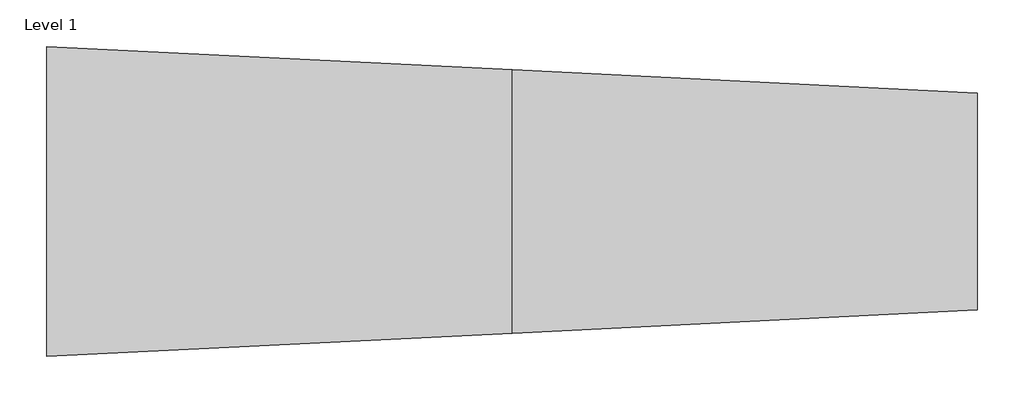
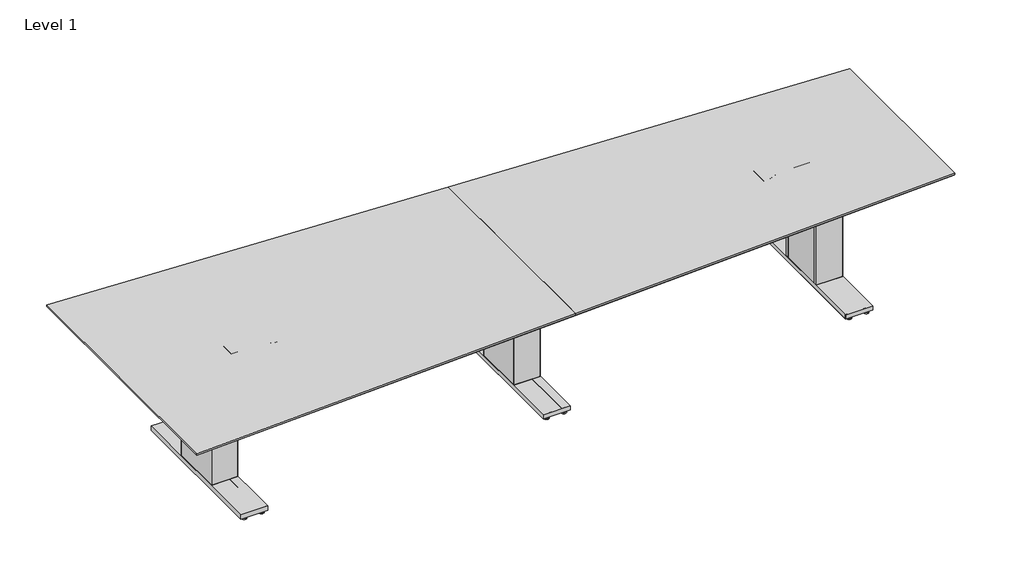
# One storey, incomplete: 9 proxies.
"""IFC4 building model written with IfcOpenShell, lengths in millimetres."""

from ifc_helpers import new_model, si_unit, origin, place, context, project, spatial, transform, mapped, element, save
from components import generic_models_b9161e84, generic_models_fe4cac86, generic_models_3990db88, generic_models_0eea9f45

model = new_model("IFC4")

# Units and contexts
model_context = context("Model", 3, world=origin())
ifc_project = project(units=[si_unit("LENGTHUNIT", "METRE", prefix="MILLI")], contexts=[model_context])

# Site, building, storey
site = spatial("IfcSite", under=ifc_project)
building = spatial("IfcBuilding", under=site)
storey = spatial("IfcBuildingStorey", under=building, Name="Level 1", Elevation=0.0)

# Proxies
placement = place(None, origin())
generic_models_shape = generic_models_b9161e84(model_context)
element("IfcBuildingElementProxy", 1, Name="AERO^TABLE 4_6  X 36 BASE-REV221", ObjectType="AERO^TABLE 4_6  X 36 BASE-REV221", at=placement, inside=storey, context=model_context, shape_type="MappedRepresentation", body=[
    mapped(generic_models_shape, transform((435.76875, -1216.025, -625.0722901), x_axis=(1.0, 0.0, 0.0), y_axis=(0.0, 0.0, 1.0), z_axis=(0.0, -1.0, 0.0))),
])
element("IfcBuildingElementProxy", 2, Name="AERO^TABLE 4_6  X 36 BASE-REV221", ObjectType="AERO^TABLE 4_6  X 36 BASE-REV221", at=placement, inside=storey, context=model_context, shape_type="MappedRepresentation", body=[
    mapped(generic_models_shape, transform((3977.48125, -1216.025, -625.0722901), x_axis=(1.0, 0.0, 0.0), y_axis=(0.0, 0.0, 1.0), z_axis=(0.0, -1.0, 0.0))),
])
element("IfcBuildingElementProxy", 3, Name="AERO^TABLE 4_6  X 36 BASE-REV221", ObjectType="AERO^TABLE 4_6  X 36 BASE-REV221", at=placement, inside=storey, context=model_context, shape_type="MappedRepresentation", body=[
    mapped(generic_models_shape, transform((2206.625, -1216.025, -625.0722901), x_axis=(1.0, 0.0, 0.0), y_axis=(0.0, 0.0, 1.0), z_axis=(0.0, -1.0, 0.0))),
])
generic_models_2_shape = generic_models_fe4cac86(model_context)
element("IfcBuildingElementProxy", 4, Name="AERO^TABLE 4__AMC-611-V-122", ObjectType="AERO^TABLE 4__AMC-611-V-122", at=placement, inside=storey, context=model_context, shape_type="MappedRepresentation", body=[
    mapped(generic_models_2_shape, transform((2228.05625, -893.7625, -593.7590525), x_axis=(0.0, 1.0, 0.0), y_axis=(0.0, 0.0, 1.0), z_axis=(1.0, 0.0, 0.0))),
])
element("IfcBuildingElementProxy", 5, Name="AERO^TABLE 4__AMC-611-V-122", ObjectType="AERO^TABLE 4__AMC-611-V-122", at=placement, inside=storey, context=model_context, shape_type="MappedRepresentation", body=[
    mapped(generic_models_2_shape, transform((4114.8, -630.2375, -593.7590525), x_axis=(0.0, -1.0, 0.0), y_axis=(0.0, 0.0, 1.0), z_axis=(-1.0, 0.0, 0.0))),
])
element("IfcBuildingElementProxy", 6, Name="AERO^TABLE 4__AMC-611-V-122", ObjectType="AERO^TABLE 4__AMC-611-V-122", at=placement, inside=storey, context=model_context, shape_type="MappedRepresentation", body=[
    mapped(generic_models_2_shape, transform((457.2, -893.7625, -593.7590525), x_axis=(0.0, 1.0, 0.0), y_axis=(0.0, 0.0, 1.0), z_axis=(1.0, 0.0, 0.0))),
])
generic_models_3_shape = generic_models_3990db88(model_context)
element("IfcBuildingElementProxy", 7, Name="AERO^TABLE 4_4260 WEDGE-PARTS SOLID", ObjectType="AERO^TABLE 4_4260 WEDGE-PARTS SOLID", at=placement, inside=storey, context=model_context, shape_type="MappedRepresentation", body=[
    mapped(generic_models_3_shape, transform((0.0, -1524.0, 86.1340599), x_axis=(1.0, 0.0, 0.0), y_axis=(0.0, 0.0, 1.0), z_axis=(0.0, -1.0, 0.0))),
])
generic_models_4_shape = generic_models_0eea9f45(model_context)
element("IfcBuildingElementProxy", 8, Name="AERO^TABLE 4_4260 WEDGE-POWER LID", ObjectType="AERO^TABLE 4_4260 WEDGE-POWER LID", at=placement, inside=storey, context=model_context, shape_type="MappedRepresentation", body=[
    mapped(generic_models_4_shape, transform((874.7125, -869.95, 117.8840599), x_axis=(-1.0, 0.0, 0.0), y_axis=(0.0, 0.0, -1.0), z_axis=(0.0, -1.0, 0.0))),
])
element("IfcBuildingElementProxy", 9, Name="AERO^TABLE 4_4260 WEDGE-POWER LID", ObjectType="AERO^TABLE 4_4260 WEDGE-POWER LID", at=placement, inside=storey, context=model_context, shape_type="MappedRepresentation", body=[
    mapped(generic_models_4_shape, transform((3697.2875, -654.0499969, 117.8840599), x_axis=(1.0, 0.0, 0.0), y_axis=(0.0, 0.0, -1.0), z_axis=(0.0, 1.0, 0.0))),
])

save(model, "model.ifc")
